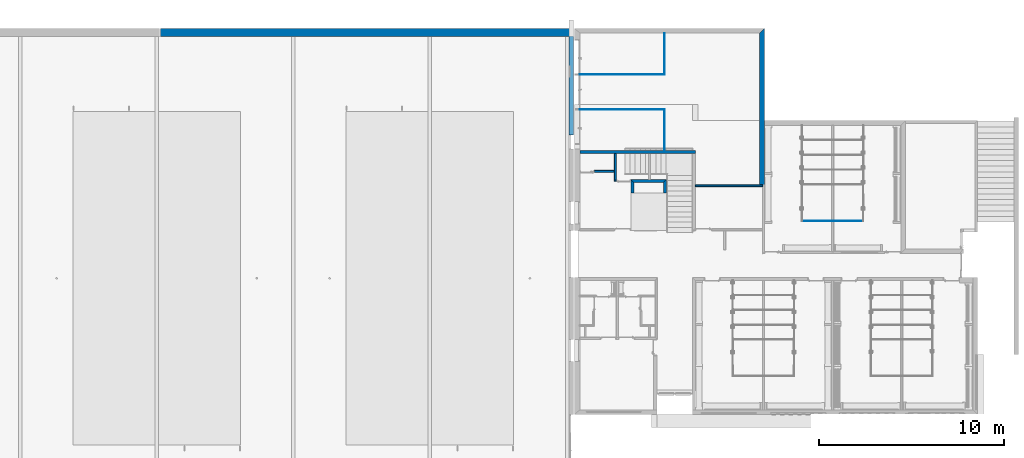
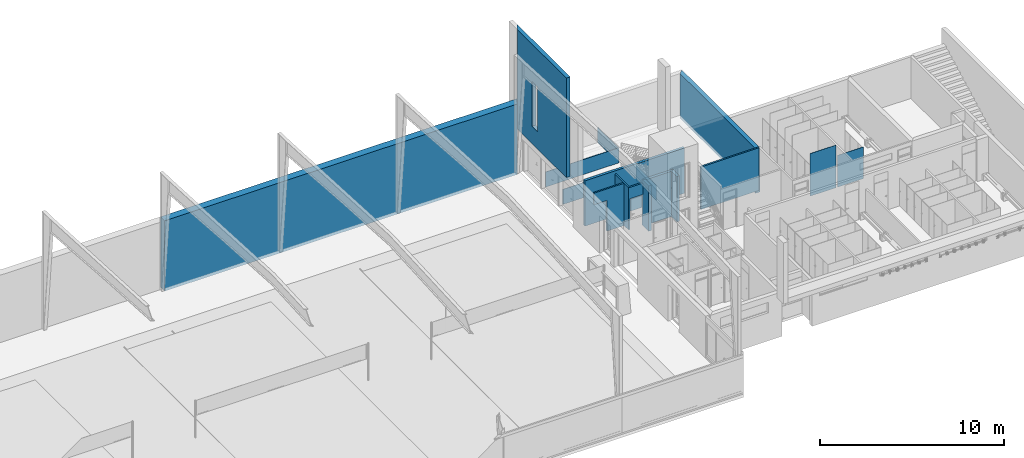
# One storey, part 24 of 45: 17 walls, 4 openings.
"""IFC2X3 building model written with IfcOpenShell, lengths in metres."""

from ifc_helpers import new_model, entity, si_unit, converted_unit, money_unit, direction, frame, origin_with_axes, place, context, subcontext, project, spatial, polyline, outline, extrude, material, layer, layer_set, layer_usage, type_object, element, save


model = new_model("IFC2X3")

# Units and contexts
model_context = context("Model", 3, precision=1e-05, world=origin_with_axes(), true_north=direction((0.0, 1.0)))
body_context = subcontext(model_context, "Body", "Model", "MODEL_VIEW")
ifc_project = project(units=[si_unit("LENGTHUNIT", "METRE"), si_unit("AREAUNIT", "SQUARE_METRE"), si_unit("VOLUMEUNIT", "CUBIC_METRE"), converted_unit("PLANEANGLEUNIT", "DEGREE", entity("IfcPlaneAngleMeasure", 0.0174532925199), si_unit("PLANEANGLEUNIT", "RADIAN"), dimensions=[0, 0, 0, 0, 0, 0, 0]), si_unit("SOLIDANGLEUNIT", "STERADIAN"), money_unit("EUR"), converted_unit("TIMEUNIT", "Year", entity("IfcTimeMeasure", 31556926.0), si_unit("TIMEUNIT", "SECOND"), dimensions=[0, 0, 0, 0, 0, 0, 0]), si_unit("MASSUNIT", "GRAM"), si_unit("THERMODYNAMICTEMPERATUREUNIT", "DEGREE_CELSIUS"), si_unit("LUMINOUSINTENSITYUNIT", "LUMEN")], contexts=[model_context])

# Site, building, storey
site_placement = place(None, origin_with_axes())
site = spatial("IfcSite", under=ifc_project, at=site_placement, Name="Site", CompositionType="ELEMENT")
building_placement = place(site_placement, origin_with_axes())
building = spatial("IfcBuilding", under=site, at=building_placement, Name="Bâtiment", CompositionType="ELEMENT")
storey_placement = place(building_placement, origin_with_axes())
storey = spatial("IfcBuildingStorey", under=building, at=storey_placement, Name="NIVEAU BAS GYMNASE", CompositionType="ELEMENT", Elevation=0.0)

# Wall, opening
ifc_material_1 = material(Name="Hachure solide* 3962059836")
ifc_layer_1 = layer(ifc_material_1, 0.1, ventilated="UNKNOWN")
ifc_layer_set_1 = layer_set([ifc_layer_1], Name="Hachure solide* 3962059836 0.1")
ifc_layer_usage_1 = layer_usage(ifc_layer_set_1, "AXIS2", "POSITIVE", 0.0)
wall_type_1 = type_object("IfcWallType", Name="Hachure solide* 3962059836 100", PredefinedType="NOTDEFINED")
wall_1_placement = place(storey_placement, frame((48.518457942, 18.568815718, 0.0), z_axis=(0.0, 0.0, 1.0), x_axis=(-1.0, 0.0, 0.0)))
wall_1 = element("IfcWallStandardCase", 1, at=wall_1_placement, inside=storey, type_object=wall_type_1, material=ifc_layer_usage_1, Name="Mur-004", context=body_context, shape_type="SweptSolid", body=[
    extrude(outline(polyline([(0.0, 0.0), (0.79, 0.0), (0.89, 0.1), (0.0, 0.1), (0.0, 0.0)])), origin_with_axes(), (0.0, 0.0, 1.0), 2.8),
])
opening_1_placement = place(wall_1_placement, frame((0.394999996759, 0.0, -0.01), z_axis=(0.0, 0.0, 1.0), x_axis=(1.0, 0.0, 0.0)))
element("IfcOpeningElement", 2, at=opening_1_placement, cuts=wall_1, Name="Por-018", context=body_context, shape_type="SweptSolid", body=[
    extrude(outline(polyline([(0.395, 0.0), (-0.395, 0.0), (-0.395, -2.055), (0.395, -2.055), (0.395, 0.0)])), frame((0.0, -0.1, 0.0), z_axis=(0.0, 1.0, 0.0), x_axis=(1.0, 0.0, 0.0)), (0.0, 0.0, 1.0), 0.2),
])

# Wall
ifc_layer_usage_2 = layer_usage(ifc_layer_set_1, "AXIS2", "POSITIVE", 0.0)
wall_2_placement = place(storey_placement, frame((47.728457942, 18.568815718, 0.0), z_axis=(0.0, 0.0, 1.0), x_axis=(0.0, 1.0, 0.0)))
element("IfcWallStandardCase", 3, at=wall_2_placement, inside=storey, type_object=wall_type_1, material=ifc_layer_usage_2, Name="Mur-004", context=body_context, shape_type="SweptSolid", body=[
    extrude(outline(polyline([(0.0, 0.0), (1.4, 0.0), (1.4, 0.1), (-0.1, 0.1), (0.0, 0.0)])), origin_with_axes(), (0.0, 0.0, 1.0), 2.8),
])

# Wall, opening
ifc_layer_usage_3 = layer_usage(ifc_layer_set_1, "AXIS2", "POSITIVE", 0.0)
wall_3_placement = place(storey_placement, frame((47.728457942, 19.0586692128, 0.0), z_axis=(0.0, 0.0, 1.0), x_axis=(-1.0, 0.0, 0.0)))
wall_3 = element("IfcWallStandardCase", 4, at=wall_3_placement, inside=storey, type_object=wall_type_1, material=ifc_layer_usage_3, Name="Mur-005", context=body_context, shape_type="SweptSolid", body=[
    extrude(outline(polyline([(0.1, 0.0), (1.97, 0.0), (1.97, 0.1), (0.1, 0.1), (0.1, 0.0)])), origin_with_axes(), (0.0, 0.0, 1.0), 2.8),
])
opening_2_placement = place(wall_3_placement, frame((1.57500000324, 0.0, -0.01), z_axis=(0.0, 0.0, 1.0), x_axis=(1.0, 0.0, 0.0)))
element("IfcOpeningElement", 5, at=opening_2_placement, cuts=wall_3, Name="Por-018", context=body_context, shape_type="SweptSolid", body=[
    extrude(outline(polyline([(-0.395, 0.0), (-0.395, -2.055), (0.395, -2.055), (0.395, 0.0), (-0.395, 0.0)])), frame((0.0, -0.1, 0.0), z_axis=(0.0, 1.0, 0.0), x_axis=(1.0, 0.0, 0.0)), (0.0, 0.0, 1.0), 0.2),
])

# Walls
ifc_layer_usage_4 = layer_usage(ifc_layer_set_1, "AXIS2", "POSITIVE", -0.1)
wall_4_placement = place(storey_placement, frame((51.838457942, 18.2839579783, 0.0), z_axis=(0.0, 0.0, 1.0), x_axis=(1.0, 0.0, 0.0)))
element("IfcWallStandardCase", 6, at=wall_4_placement, inside=storey, type_object=wall_type_1, material=ifc_layer_usage_4, Name="Mur-004", context=body_context, shape_type="SweptSolid", body=[
    extrude(outline(polyline([(0.16, -0.1), (3.795, -0.1), (3.795, 0.0), (0.16, 0.0), (0.16, -0.1)])), origin_with_axes(), (0.0, 0.0, 1.0), 2.82),
])
ifc_material_2 = material(Name="Hachure solide* 3992800808")
ifc_layer_2 = layer(ifc_material_2, 0.02, ventilated="UNKNOWN")
ifc_material_3 = material(Name="Empty Fill 290923149")
ifc_layer_3 = layer(ifc_material_3, 0.08, ventilated="UNKNOWN")
ifc_material_4 = material(Name="Hachure solide* 2593434267")
ifc_layer_4 = layer(ifc_material_4, 0.16, ventilated="UNKNOWN")
ifc_layer_set_2 = layer_set([ifc_layer_2, ifc_layer_3, ifc_layer_4], Name="•GYMN 16+10")
ifc_layer_usage_5 = layer_usage(ifc_layer_set_2, "AXIS2", "POSITIVE", -0.26)
wall_type_2 = type_object("IfcWallType", Name="•GYMN 16+10 260", PredefinedType="NOTDEFINED")
wall_5_placement = place(storey_placement, frame((55.733457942, 26.7391158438, -0.2), z_axis=(0.0, 0.0, 1.0), x_axis=(0.0, -1.0, 0.0)))
element("IfcWallStandardCase", 7, at=wall_5_placement, inside=storey, type_object=wall_type_2, material=ifc_layer_usage_5, Name="Mur-021", context=body_context, shape_type="SweptSolid", body=[
    extrude(outline(polyline([(0.26, -0.26), (8.45515786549, -0.26), (8.45515786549, 0.0), (0.0, 0.0), (0.26, -0.26)])), origin_with_axes(), (0.0, 0.0, 1.0), 2.95),
])
ifc_layer_5 = layer(ifc_material_1, 0.16, ventilated="UNKNOWN")
ifc_layer_set_3 = layer_set([ifc_layer_5], Name="Hachure solide* 3962059836 0.16")
ifc_layer_usage_6 = layer_usage(ifc_layer_set_3, "AXIS2", "POSITIVE", -0.16)
wall_type_3 = type_object("IfcWallType", Name="Hachure solide* 3962059836 160", PredefinedType="NOTDEFINED")
wall_6_placement = place(storey_placement, frame((48.518457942, 18.568815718, 0.0), z_axis=(0.0, 0.0, 1.0), x_axis=(1.0, 0.0, 0.0)))
element("IfcWallStandardCase", 8, at=wall_6_placement, inside=storey, type_object=wall_type_3, material=ifc_layer_usage_6, Name="Mur-005", context=body_context, shape_type="SweptSolid", body=[
    extrude(outline(polyline([(0.16, -0.16), (1.76, -0.16), (1.92, 0.0), (0.0, 0.0), (0.16, -0.16)])), origin_with_axes(), (0.0, 0.0, 1.0), 3.0),
])
ifc_layer_usage_7 = layer_usage(ifc_layer_set_3, "AXIS2", "POSITIVE", -0.16)
wall_7_placement = place(storey_placement, frame((50.438457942, 18.568815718, 0.0), z_axis=(0.0, 0.0, 1.0), x_axis=(0.0, -1.0, 0.0)))
element("IfcWallStandardCase", 9, at=wall_7_placement, inside=storey, type_object=wall_type_3, material=ifc_layer_usage_7, Name="Mur-006", context=body_context, shape_type="SweptSolid", body=[
    extrude(outline(polyline([(0.16, -0.16), (0.74, -0.16), (0.74, 0.0), (0.0, 0.0), (0.16, -0.16)])), origin_with_axes(), (0.0, 0.0, 1.0), 3.0),
])
ifc_layer_usage_8 = layer_usage(ifc_layer_set_3, "AXIS2", "POSITIVE", -0.16)
wall_8_placement = place(storey_placement, frame((48.518457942, 17.828815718, 0.0), z_axis=(0.0, 0.0, 1.0), x_axis=(0.0, 1.0, 0.0)))
element("IfcWallStandardCase", 10, at=wall_8_placement, inside=storey, type_object=wall_type_3, material=ifc_layer_usage_8, Name="Mur-004", context=body_context, shape_type="SweptSolid", body=[
    extrude(outline(polyline([(0.0, -0.16), (0.58, -0.16), (0.74, 0.0), (0.0, 0.0), (0.0, -0.16)])), origin_with_axes(), (0.0, 0.0, 1.0), 3.0),
])
ifc_layer_6 = layer(ifc_material_1, 0.03, ventilated="UNKNOWN")
ifc_layer_set_4 = layer_set([ifc_layer_6], Name="Hachure solide* 3962059836 0.03")
ifc_layer_usage_9 = layer_usage(ifc_layer_set_4, "AXIS2", "POSITIVE", -0.015)
wall_type_4 = type_object("IfcWallType", Name="Hachure solide* 3962059836 30", PredefinedType="NOTDEFINED")
wall_9_placement = place(storey_placement, frame((50.331227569, 24.2489657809, 0.0), z_axis=(0.0, 0.0, 1.0), x_axis=(0.0, 1.0, 0.0)))
element("IfcWallStandardCase", 11, at=wall_9_placement, inside=storey, type_object=wall_type_4, material=ifc_layer_usage_9, Name="Mur-007", context=body_context, shape_type="SweptSolid", body=[
    extrude(outline(polyline([(-0.015, -0.015), (2.2301500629, -0.015), (2.2301500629, 0.015), (0.015, 0.015), (-0.015, -0.015)])), origin_with_axes(), (0.0, 0.0, 1.0), 1.0),
])
ifc_layer_usage_10 = layer_usage(ifc_layer_set_4, "AXIS2", "POSITIVE", -0.015)
wall_10_placement = place(storey_placement, frame((45.478457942, 22.3589657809, 0.0), z_axis=(0.0, 0.0, 1.0), x_axis=(1.0, 0.0, 0.0)))
element("IfcWallStandardCase", 12, at=wall_10_placement, inside=storey, type_object=wall_type_4, material=ifc_layer_usage_10, Name="Mur-008", context=body_context, shape_type="SweptSolid", body=[
    extrude(outline(polyline([(0.28, -0.015), (4.837769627, -0.015), (4.867769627, 0.015), (0.28, 0.015), (0.28, -0.015)])), origin_with_axes(), (0.0, 0.0, 1.0), 1.0),
])
ifc_layer_usage_11 = layer_usage(ifc_layer_set_4, "AXIS2", "POSITIVE", -0.015)
wall_11_placement = place(storey_placement, frame((50.331227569, 19.968815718, 0.0), z_axis=(0.0, 0.0, 1.0), x_axis=(0.0, 1.0, 0.0)))
element("IfcWallStandardCase", 13, at=wall_11_placement, inside=storey, type_object=wall_type_4, material=ifc_layer_usage_11, Name="Mur-007", context=body_context, shape_type="SweptSolid", body=[
    extrude(outline(polyline([(0.16, -0.015), (2.4051500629, -0.015), (2.3751500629, 0.015), (0.16, 0.015), (0.16, -0.015)])), origin_with_axes(), (0.0, 0.0, 1.0), 1.0),
])
ifc_layer_usage_12 = layer_usage(ifc_layer_set_4, "AXIS2", "POSITIVE", -0.015)
wall_12_placement = place(storey_placement, frame((45.478457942, 24.2489657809, 0.0), z_axis=(0.0, 0.0, 1.0), x_axis=(1.0, 0.0, 0.0)))
element("IfcWallStandardCase", 14, at=wall_12_placement, inside=storey, type_object=wall_type_4, material=ifc_layer_usage_12, Name="Mur-006", context=body_context, shape_type="SweptSolid", body=[
    extrude(outline(polyline([(0.28, -0.015), (4.867769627, -0.015), (4.837769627, 0.015), (0.28, 0.015), (0.28, -0.015)])), origin_with_axes(), (0.0, 0.0, 1.0), 1.0),
])

# Wall, opening
ifc_layer_7 = layer(ifc_material_4, 0.16, ventilated="UNKNOWN")
ifc_layer_set_5 = layer_set([ifc_layer_7], Name="Hachure solide* 2593434267 0.16")
ifc_layer_usage_13 = layer_usage(ifc_layer_set_5, "AXIS2", "POSITIVE", -0.16)
wall_type_5 = type_object("IfcWallType", Name="Hachure solide* 2593434267 160", PredefinedType="NOTDEFINED")
wall_13_placement = place(storey_placement, frame((51.998457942, 19.968815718, 0.0), z_axis=(0.0, 0.0, 1.0), x_axis=(-1.0, 0.0, 0.0)))
wall_13 = element("IfcWallStandardCase", 15, at=wall_13_placement, inside=storey, type_object=wall_type_5, material=ifc_layer_usage_13, Name="Mur-005", context=body_context, shape_type="SweptSolid", body=[
    extrude(outline(polyline([(0.0, -0.16), (6.24, -0.16), (6.24, 0.0), (0.0, 0.0), (0.0, -0.16)])), origin_with_axes(), (0.0, 0.0, 1.0), 3.0),
])
opening_3_placement = place(wall_13_placement, frame((-1.7375, 0.0, 0.0), z_axis=(0.0, 0.0, 1.0), x_axis=(1.0, 0.0, 0.0)))
element("IfcOpeningElement", 16, at=opening_3_placement, cuts=wall_13, Name="Por-001", context=body_context, shape_type="SweptSolid", body=[
    extrude(outline(polyline([(-1.7375, 2.0), (-1.7375, 0.0), (1.7375, 0.0), (1.7375, 2.0), (-1.7375, 2.0)])), frame((0.0, -0.16, 0.0), z_axis=(0.0, -1.0, 0.0), x_axis=(1.0, 0.0, 0.0)), (0.0, 0.0, 1.0), 0.16),
    extrude(outline(polyline([(-1.7375, 0.0), (-1.7375, -2.0), (1.7375, -2.0), (1.7375, 0.0), (-1.7375, 0.0)])), frame((0.0, -0.16, 0.0), z_axis=(0.0, 1.0, 0.0), x_axis=(1.0, 0.0, 0.0)), (0.0, 0.0, 1.0), 0.16),
])

# Walls
ifc_material_5 = material(Name="Hachure solide* 3893414420")
ifc_layer_8 = layer(ifc_material_5, 0.45, ventilated="UNKNOWN")
ifc_layer_set_6 = layer_set([ifc_layer_8], Name="Hachure solide* 3893414420 0.45")
ifc_layer_usage_14 = layer_usage(ifc_layer_set_6, "AXIS2", "POSITIVE", 0.0)
wall_type_6 = type_object("IfcWallType", Name="Hachure solide* 3893414420 450", PredefinedType="NOTDEFINED")
wall_14_placement = place(storey_placement, frame((23.108457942, 26.2891158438, -0.2), z_axis=(0.0, 0.0, 1.0), x_axis=(1.0, 0.0, 0.0)))
element("IfcWallStandardCase", 17, at=wall_14_placement, inside=storey, type_object=wall_type_6, material=ifc_layer_usage_14, Name="Mur-002", context=body_context, shape_type="SweptSolid", body=[
    extrude(outline(polyline([(0.0, 0.0), (22.07, 0.0), (22.31, 0.45), (0.0, 0.45), (0.0, 0.0)])), origin_with_axes(), (0.0, 0.0, 1.0), 4.66),
])
ifc_material_6 = material(Name="Hachure solide 3821565075")
ifc_layer_9 = layer(ifc_material_6, 0.02, ventilated="UNKNOWN")
ifc_layer_set_7 = layer_set([ifc_layer_9], Name="Hachure solide 3821565075 0.02")
ifc_layer_usage_15 = layer_usage(ifc_layer_set_7, "AXIS2", "POSITIVE", 0.0)
wall_type_7 = type_object("IfcWallType", Name="Hachure solide 3821565075 20", PredefinedType="NOTDEFINED")
wall_15_placement = place(storey_placement, frame((61.0632132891, 16.338956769, 0.0), z_axis=(0.0, 0.0, 1.0), x_axis=(-1.0, 0.0, 0.0)))
element("IfcWallStandardCase", 18, at=wall_15_placement, inside=storey, type_object=wall_type_7, material=ifc_layer_usage_15, Name="Mur-022", context=body_context, shape_type="SweptSolid", body=[
    extrude(outline(polyline([(0.0, 0.0), (1.5947553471, 0.0), (1.5947553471, 0.02), (-0.02, 0.02), (0.0, 0.0)])), origin_with_axes(), (0.0, 0.0, 1.0), 2.1),
])
ifc_layer_usage_16 = layer_usage(ifc_layer_set_7, "AXIS2", "POSITIVE", -0.02)
wall_16_placement = place(storey_placement, frame((57.7737025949, 16.338956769, 0.0), z_axis=(0.0, 0.0, 1.0), x_axis=(1.0, 0.0, 0.0)))
element("IfcWallStandardCase", 19, at=wall_16_placement, inside=storey, type_object=wall_type_7, material=ifc_layer_usage_16, Name="Mur-022", context=body_context, shape_type="SweptSolid", body=[
    extrude(outline(polyline([(-0.02, -0.02), (1.59475534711, -0.02), (1.59475534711, 0.0), (0.0, 0.0), (-0.02, -0.02)])), origin_with_axes(), (0.0, 0.0, 1.0), 2.82),
])

# Wall, opening
ifc_material_7 = material(Name="Hachure solide* 1842511997")
ifc_layer_10 = layer(ifc_material_7, 0.1, ventilated="UNKNOWN")
ifc_material_8 = material(Name="Isolation 347608549")
ifc_layer_11 = layer(ifc_material_8, 0.12, ventilated="UNKNOWN")
ifc_material_9 = material(Name="Hachure solide* 398427698")
ifc_layer_12 = layer(ifc_material_9, 0.02, ventilated="UNKNOWN")
ifc_layer_set_8 = layer_set([ifc_layer_10, ifc_layer_11, ifc_layer_12], Name="•GYMN PANNEAU 1 0232896968")
ifc_layer_usage_17 = layer_usage(ifc_layer_set_8, "AXIS2", "POSITIVE", -0.24)
wall_type_8 = type_object("IfcWallType", Name="•GYMN PANNEAU 1 0232896968 240", PredefinedType="NOTDEFINED")
wall_17_placement = place(storey_placement, frame((45.418457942, 26.2891158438, 2.8), z_axis=(0.0, 0.0, 1.0), x_axis=(0.0, -1.0, 0.0)))
wall_17 = element("IfcWallStandardCase", 20, at=wall_17_placement, inside=storey, type_object=wall_type_8, material=ifc_layer_usage_17, Name="Mur-003", context=body_context, shape_type="SweptSolid", body=[
    extrude(outline(polyline([(0.0, -0.24), (5.3071661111, -0.24), (5.3071661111, 0.0), (-0.45, 0.0), (0.0, -0.24)])), origin_with_axes(), (0.0, 0.0, 1.0), 6.58885386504),
])
opening_4_placement = place(wall_17_placement, frame((1.88862188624, 0.0, 1.15), z_axis=(0.0, 0.0, 1.0), x_axis=(1.0, 0.0, 0.0)))
element("IfcOpeningElement", 21, at=opening_4_placement, cuts=wall_17, Name="Fen-027", context=body_context, shape_type="SweptSolid", body=[
    extrude(outline(polyline([(0.303505, 0.0), (-0.303505, 0.0), (-0.303505, -2.974206), (0.303505, -2.974206), (0.303505, 0.0)])), frame((0.0, -0.18, 0.0), z_axis=(0.0, 1.0, 0.0), x_axis=(1.0, 0.0, 0.0)), (0.0, 0.0, 1.0), 0.42),
    extrude(outline(polyline([(0.303505, 2.974206), (-0.303505, 2.974206), (-0.303505, 0.0), (0.303505, 0.0), (0.303505, 2.974206)])), frame((0.0, -0.18, 0.0), z_axis=(0.0, -1.0, 0.0), x_axis=(1.0, 0.0, 0.0)), (0.0, 0.0, 1.0), 0.3),
])

save(model, "model.ifc")
